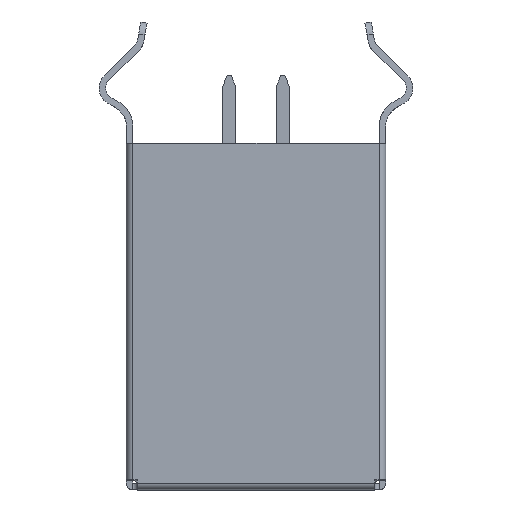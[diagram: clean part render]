
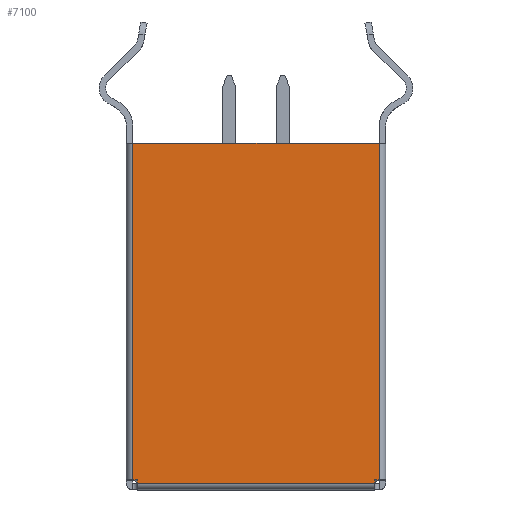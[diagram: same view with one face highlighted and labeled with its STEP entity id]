
A CAD part, top view. The second image highlights one B-rep face of the part: STEP entity #7100.
In plain terms, the highlighted planar face has unit normal (0, 0, 1).
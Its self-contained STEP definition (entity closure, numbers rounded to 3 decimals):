
#570 = VECTOR ( 'NONE', #13449, 1000. ) ;
#618 = DIRECTION ( 'NONE',  ( 0., -1., 0. ) ) ;
#990 = VERTEX_POINT ( 'NONE', #38557 ) ;
#3057 = EDGE_CURVE ( 'NONE', #36342, #28517, #10035, .T. ) ;
#4117 = LINE ( 'NONE', #30771, #7021 ) ;
#4124 = PLANE ( 'NONE',  #21257 ) ;
#5512 = LINE ( 'NONE', #18489, #22454 ) ;
#6601 = ORIENTED_EDGE ( 'NONE', *, *, #21577, .T. ) ;
#6649 = CARTESIAN_POINT ( 'NONE',  ( -5.515, 0.45, 0. ) ) ;
#6936 = VERTEX_POINT ( 'NONE', #21844 ) ;
#7021 = VECTOR ( 'NONE', #14764, 1000. ) ;
#7100 = ADVANCED_FACE ( 'NONE', ( #30377 ), #4124, .T. ) ;
#7954 = CARTESIAN_POINT ( 'NONE',  ( -5.515, 0.3, 0. ) ) ;
#8527 = VECTOR ( 'NONE', #15359, 1000. ) ;
#9306 = LINE ( 'NONE', #21449, #37963 ) ;
#10035 = LINE ( 'NONE', #6649, #570 ) ;
#10127 = VERTEX_POINT ( 'NONE', #20645 ) ;
#10990 = CARTESIAN_POINT ( 'NONE',  ( -5.725, 0.45, 0. ) ) ;
#11251 = CARTESIAN_POINT ( 'NONE',  ( -5.725, 0.45, 0. ) ) ;
#12129 = EDGE_CURVE ( 'NONE', #17571, #6936, #29844, .T. ) ;
#12538 = CARTESIAN_POINT ( 'NONE',  ( 5.525, 16.1, 0. ) ) ;
#12731 = ORIENTED_EDGE ( 'NONE', *, *, #30063, .F. ) ;
#13449 = DIRECTION ( 'NONE',  ( -1., 0., 0. ) ) ;
#14470 = VECTOR ( 'NONE', #29381, 1000. ) ;
#14764 = DIRECTION ( 'NONE',  ( -1., 0., 0. ) ) ;
#15359 = DIRECTION ( 'NONE',  ( 0., 1., 0. ) ) ;
#15541 = LINE ( 'NONE', #12538, #14470 ) ;
#16789 = ORIENTED_EDGE ( 'NONE', *, *, #25027, .F. ) ;
#17533 = DIRECTION ( 'NONE',  ( 1., 0., 0. ) ) ;
#17571 = VERTEX_POINT ( 'NONE', #29401 ) ;
#18184 = CARTESIAN_POINT ( 'NONE',  ( -5.725, 16.1, 0. ) ) ;
#18396 = ORIENTED_EDGE ( 'NONE', *, *, #21443, .T. ) ;
#18489 = CARTESIAN_POINT ( 'NONE',  ( 5.725, 16.1, 0. ) ) ;
#18788 = EDGE_CURVE ( 'NONE', #21730, #36342, #31976, .T. ) ;
#20118 = EDGE_LOOP ( 'NONE', ( #24641, #6601, #16789, #18396, #41302, #34992, #12731, #24989 ) ) ;
#20645 = CARTESIAN_POINT ( 'NONE',  ( 5.725, 16.1, 0. ) ) ;
#21257 = AXIS2_PLACEMENT_3D ( 'NONE', #27147, #23732, #17533 ) ;
#21443 = EDGE_CURVE ( 'NONE', #41611, #28517, #40012, .T. ) ;
#21449 = CARTESIAN_POINT ( 'NONE',  ( 5.515, 0.45, 0. ) ) ;
#21577 = EDGE_CURVE ( 'NONE', #990, #10127, #5512, .T. ) ;
#21730 = VERTEX_POINT ( 'NONE', #7954 ) ;
#21844 = CARTESIAN_POINT ( 'NONE',  ( 5.515, 0.3, 0. ) ) ;
#22096 = DIRECTION ( 'NONE',  ( 1., 0., 0. ) ) ;
#22454 = VECTOR ( 'NONE', #41280, 1000. ) ;
#23624 = CARTESIAN_POINT ( 'NONE',  ( -5.515, 0.45, 0. ) ) ;
#23732 = DIRECTION ( 'NONE',  ( 0., 0., 1. ) ) ;
#24070 = DIRECTION ( 'NONE',  ( 0., -1., 0. ) ) ;
#24641 = ORIENTED_EDGE ( 'NONE', *, *, #42135, .T. ) ;
#24989 = ORIENTED_EDGE ( 'NONE', *, *, #12129, .F. ) ;
#25027 = EDGE_CURVE ( 'NONE', #41611, #10127, #15541, .T. ) ;
#27147 = CARTESIAN_POINT ( 'NONE',  ( 0., 0., 0. ) ) ;
#28517 = VERTEX_POINT ( 'NONE', #10990 ) ;
#29381 = DIRECTION ( 'NONE',  ( 1., 0., 0. ) ) ;
#29401 = CARTESIAN_POINT ( 'NONE',  ( 5.515, 0.45, 0. ) ) ;
#29844 = LINE ( 'NONE', #39825, #39683 ) ;
#30063 = EDGE_CURVE ( 'NONE', #6936, #21730, #4117, .T. ) ;
#30377 = FACE_OUTER_BOUND ( 'NONE', #20118, .T. ) ;
#30581 = VECTOR ( 'NONE', #24070, 1000. ) ;
#30771 = CARTESIAN_POINT ( 'NONE',  ( -5.525, 0.3, 0. ) ) ;
#31345 = CARTESIAN_POINT ( 'NONE',  ( -5.515, 0.3, 0. ) ) ;
#31976 = LINE ( 'NONE', #31345, #8527 ) ;
#34992 = ORIENTED_EDGE ( 'NONE', *, *, #18788, .F. ) ;
#36342 = VERTEX_POINT ( 'NONE', #23624 ) ;
#37963 = VECTOR ( 'NONE', #22096, 1000. ) ;
#38557 = CARTESIAN_POINT ( 'NONE',  ( 5.725, 0.45, 0. ) ) ;
#39683 = VECTOR ( 'NONE', #618, 1000. ) ;
#39825 = CARTESIAN_POINT ( 'NONE',  ( 5.515, 0.45, 0. ) ) ;
#40012 = LINE ( 'NONE', #11251, #30581 ) ;
#41280 = DIRECTION ( 'NONE',  ( 0., 1., 0. ) ) ;
#41302 = ORIENTED_EDGE ( 'NONE', *, *, #3057, .F. ) ;
#41611 = VERTEX_POINT ( 'NONE', #18184 ) ;
#42135 = EDGE_CURVE ( 'NONE', #17571, #990, #9306, .T. ) ;
